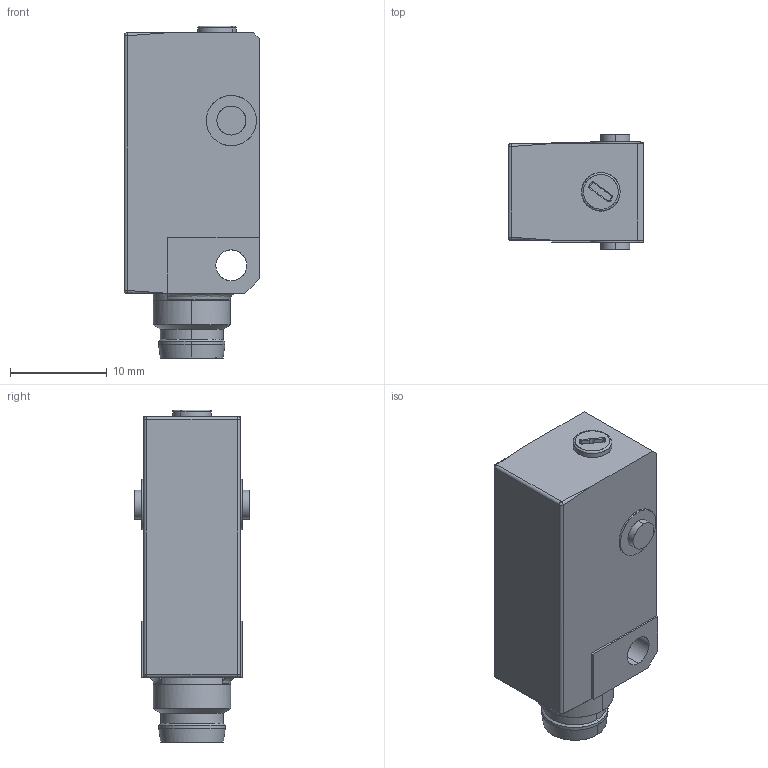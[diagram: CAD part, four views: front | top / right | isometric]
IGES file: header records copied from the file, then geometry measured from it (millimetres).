
Start section: Comment
Global section: file name: FHDK 10_S35A.igs; native system:  By Spatial Corp.; preprocessor: XPlus GENERIC/IGES 3.0; author: Author; organization: Title; date: 20060329.092155; units: inch
Bounding box: 14.05 x 12 x 34.4 mm (x, y, z)
Surface area: 1982.3 mm2 (no closed solid volume)
Topology: 0 solids, 0 shells, 167 faces, 836 edges, 828 vertices
Faces by surface type: bspline 167
